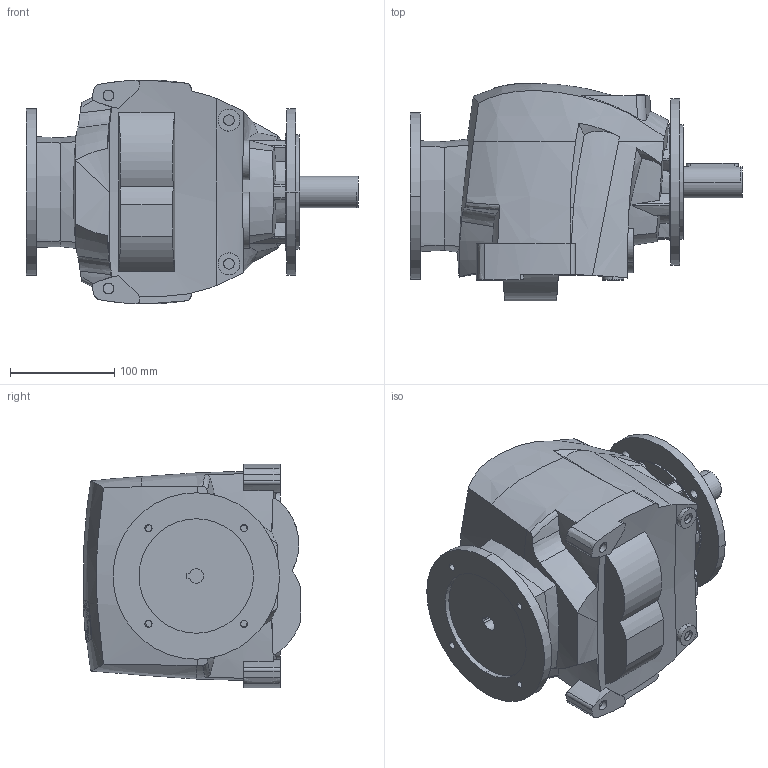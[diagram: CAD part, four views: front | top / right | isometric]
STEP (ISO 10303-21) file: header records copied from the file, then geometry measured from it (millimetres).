
FILE_DESCRIPTION((''),'2;1');
FILE_NAME('R30_160_PAM71','2013-11-24T',('Luca'),(''),'PRO/ENGINEER BY PARAMETRIC TECHNOLOGY CORPORATION, 2008230','PRO/ENGINEER BY PARAMETRIC TECHNOLOGY CORPORATION, 2008230','');
FILE_SCHEMA(('CONFIG_CONTROL_DESIGN'));
Length unit declared in the file: millimetre
Products named in the file (1): R30_160_PAM71
Bounding box: 319 x 209.27 x 215.22 mm (x, y, z)
Volume: 6420888.1 mm3; surface area: 285180.3 mm2
Topology: 6 solids, 12 shells, 416 faces, 1110 edges, 742 vertices
Faces by surface type: plane 157, cylinder 127, bspline 87, cone 24, extrusion 17, torus 4
Entity records: 16963 total; most frequent: CARTESIAN_POINT 7339, ORIENTED_EDGE 2212, DIRECTION 1602, EDGE_CURVE 1106, VERTEX_POINT 741, AXIS2_PLACEMENT_3D 551, VECTOR 500, LINE 483
